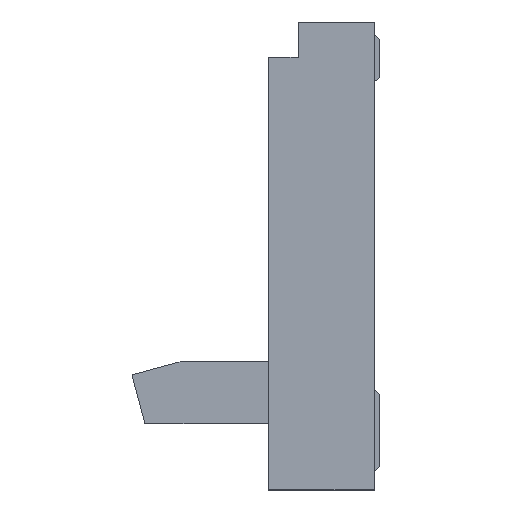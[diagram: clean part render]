
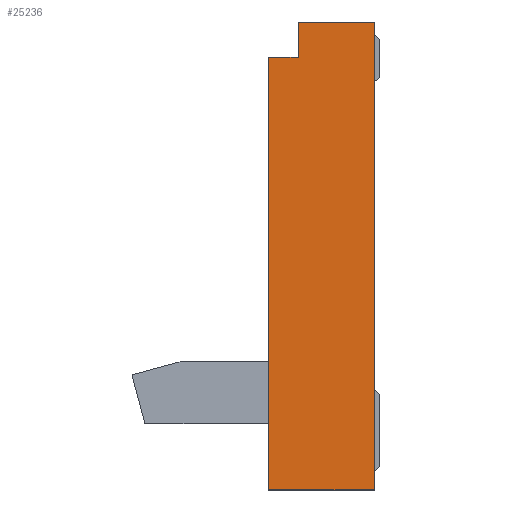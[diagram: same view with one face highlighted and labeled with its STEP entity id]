
A CAD part, left-side view. The second image highlights one B-rep face of the part: STEP entity #25236.
In plain terms, the highlighted planar face has unit normal (-1, 0, 0).
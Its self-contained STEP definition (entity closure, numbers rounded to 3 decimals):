
#547 = DIRECTION ( 'NONE',  ( 0., 0., -1. ) ) ;
#548 = VECTOR ( 'NONE', #547, 1000. ) ;
#549 = CARTESIAN_POINT ( 'NONE',  ( 0., 0.7, 0. ) ) ;
#550 = LINE ( 'NONE', #549, #548 ) ;
#635 = CARTESIAN_POINT ( 'NONE',  ( 0., 0.7, 0. ) ) ;
#6517 = EDGE_CURVE ( 'NONE', #6812, #6518, #9484, .T. ) ;
#6518 = VERTEX_POINT ( 'NONE', #9655 ) ;
#6519 = VERTEX_POINT ( 'NONE', #9654 ) ;
#6811 = EDGE_CURVE ( 'NONE', #6519, #6812, #9834, .T. ) ;
#6812 = VERTEX_POINT ( 'NONE', #9829 ) ;
#9484 = LINE ( 'NONE', #9658, #9657 ) ;
#9654 = CARTESIAN_POINT ( 'NONE',  ( 0., 0.95, -4. ) ) ;
#9655 = CARTESIAN_POINT ( 'NONE',  ( 0., 0.7, -0.3 ) ) ;
#9656 = DIRECTION ( 'NONE',  ( 0., -1., 0. ) ) ;
#9657 = VECTOR ( 'NONE', #9656, 1000. ) ;
#9658 = CARTESIAN_POINT ( 'NONE',  ( 0., 0.95, -0.3 ) ) ;
#9829 = CARTESIAN_POINT ( 'NONE',  ( 0., 0.95, -0.3 ) ) ;
#9830 = DIRECTION ( 'NONE',  ( 0., 0., 1. ) ) ;
#9831 = VECTOR ( 'NONE', #9830, 1000. ) ;
#9833 = CARTESIAN_POINT ( 'NONE',  ( 0., 0.95, 0. ) ) ;
#9834 = LINE ( 'NONE', #9833, #9831 ) ;
#13951 = CARTESIAN_POINT ( 'NONE',  ( 0., 0.05, 0. ) ) ;
#14183 = CARTESIAN_POINT ( 'NONE',  ( 0., 0.05, -4. ) ) ;
#14184 = DIRECTION ( 'NONE',  ( 0., 0., -1. ) ) ;
#14185 = VECTOR ( 'NONE', #14184, 1000. ) ;
#14186 = CARTESIAN_POINT ( 'NONE',  ( 0., 0.05, 0. ) ) ;
#14187 = LINE ( 'NONE', #14186, #14185 ) ;
#15383 = DIRECTION ( 'NONE',  ( 0., -1., 0. ) ) ;
#15400 = LINE ( 'NONE', #15520, #15519 ) ;
#15485 = DIRECTION ( 'NONE',  ( 0., 0., 1. ) ) ;
#15486 = DIRECTION ( 'NONE',  ( -1., 0., 0. ) ) ;
#15487 = CARTESIAN_POINT ( 'NONE',  ( 0., 0.95, 0. ) ) ;
#15488 = AXIS2_PLACEMENT_3D ( 'NONE', #15487, #15486, #15485 ) ;
#15489 = PLANE ( 'NONE',  #15488 ) ;
#15490 = FACE_OUTER_BOUND ( 'NONE', #25237, .T. ) ;
#15501 = DIRECTION ( 'NONE',  ( 0., 1., 0. ) ) ;
#15502 = VECTOR ( 'NONE', #15501, 1000. ) ;
#15503 = CARTESIAN_POINT ( 'NONE',  ( 0., 0.05, -4. ) ) ;
#15504 = LINE ( 'NONE', #15503, #15502 ) ;
#15519 = VECTOR ( 'NONE', #15383, 1000. ) ;
#15520 = CARTESIAN_POINT ( 'NONE',  ( 0., 0.05, 0. ) ) ;
#22013 = VERTEX_POINT ( 'NONE', #13951 ) ;
#22067 = EDGE_CURVE ( 'NONE', #22013, #22068, #14187, .T. ) ;
#22068 = VERTEX_POINT ( 'NONE', #14183 ) ;
#24236 = EDGE_CURVE ( 'NONE', #24267, #6518, #550, .T. ) ;
#24267 = VERTEX_POINT ( 'NONE', #635 ) ;
#25197 = ORIENTED_EDGE ( 'NONE', *, *, #6517, .F. ) ;
#25198 = ORIENTED_EDGE ( 'NONE', *, *, #6811, .F. ) ;
#25199 = ORIENTED_EDGE ( 'NONE', *, *, #25228, .F. ) ;
#25200 = ORIENTED_EDGE ( 'NONE', *, *, #22067, .F. ) ;
#25201 = ORIENTED_EDGE ( 'NONE', *, *, #25202, .F. ) ;
#25202 = EDGE_CURVE ( 'NONE', #24267, #22013, #15400, .T. ) ;
#25203 = ORIENTED_EDGE ( 'NONE', *, *, #24236, .T. ) ;
#25228 = EDGE_CURVE ( 'NONE', #22068, #6519, #15504, .T. ) ;
#25236 = ADVANCED_FACE ( 'NONE', ( #15490 ), #15489, .T. ) ;
#25237 = EDGE_LOOP ( 'NONE', ( #25197, #25198, #25199, #25200, #25201, #25203 ) ) ;
